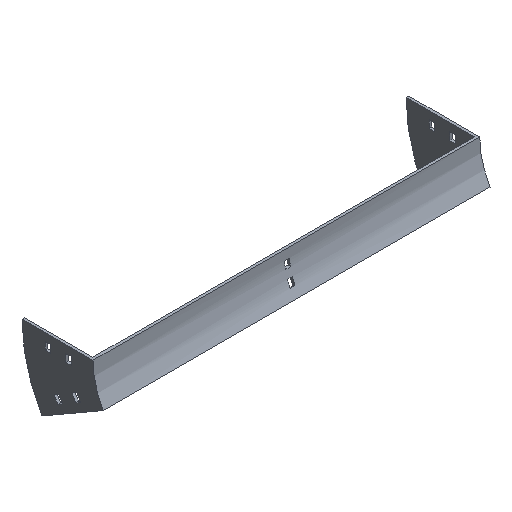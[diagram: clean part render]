
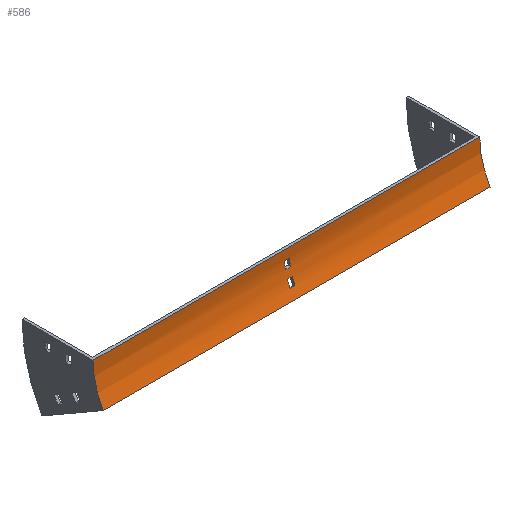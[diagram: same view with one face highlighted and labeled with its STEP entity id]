
A CAD part, isometric view. The second image highlights one B-rep face of the part: STEP entity #586.
In plain terms, the highlighted cylindrical face has radius 100 mm (diameter 200 mm), a partial arc.
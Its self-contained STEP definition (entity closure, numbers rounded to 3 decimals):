
#54 = AXIS2_PLACEMENT_3D ( 'NONE', #798, #1481, #1065 ) ;
#78 = VERTEX_POINT ( 'NONE', #1464 ) ;
#80 = CARTESIAN_POINT ( 'NONE',  ( 252., 0., 0. ) ) ;
#91 = CARTESIAN_POINT ( 'NONE',  ( -3.25, -100., 0. ) ) ;
#98 = CARTESIAN_POINT ( 'NONE',  ( -3.25, -8.023, -39.246 ) ) ;
#114 = LINE ( 'NONE', #123, #1695 ) ;
#123 = CARTESIAN_POINT ( 'NONE',  ( 252., -8.023, -39.246 ) ) ;
#164 = EDGE_CURVE ( 'NONE', #682, #389, #305, .T. ) ;
#166 = AXIS2_PLACEMENT_3D ( 'NONE', #1582, #258, #1335 ) ;
#174 = VERTEX_POINT ( 'NONE', #816 ) ;
#221 = DIRECTION ( 'NONE',  ( 0., 0., 1. ) ) ;
#255 = CARTESIAN_POINT ( 'NONE',  ( 3.25, -100., 0. ) ) ;
#258 = DIRECTION ( 'NONE',  ( -1., 0., 0. ) ) ;
#272 = ORIENTED_EDGE ( 'NONE', *, *, #596, .F. ) ;
#277 = VERTEX_POINT ( 'NONE', #98 ) ;
#284 = VECTOR ( 'NONE', #1138, 1000. ) ;
#300 = CARTESIAN_POINT ( 'NONE',  ( -3.25, -0.723, -12. ) ) ;
#305 = LINE ( 'NONE', #837, #890 ) ;
#327 = DIRECTION ( 'NONE',  ( 0., 0., 1. ) ) ;
#333 = EDGE_LOOP ( 'NONE', ( #925, #444, #358, #1285 ) ) ;
#337 = EDGE_CURVE ( 'NONE', #900, #682, #644, .T. ) ;
#340 = CIRCLE ( 'NONE', #54, 100. ) ;
#351 = CARTESIAN_POINT ( 'NONE',  ( -3.25, -2.23, -21. ) ) ;
#358 = ORIENTED_EDGE ( 'NONE', *, *, #1458, .F. ) ;
#360 = EDGE_CURVE ( 'NONE', #174, #1583, #1518, .T. ) ;
#363 = ORIENTED_EDGE ( 'NONE', *, *, #382, .T. ) ;
#375 = LINE ( 'NONE', #913, #1440 ) ;
#382 = EDGE_CURVE ( 'NONE', #1579, #900, #665, .T. ) ;
#389 = VERTEX_POINT ( 'NONE', #786 ) ;
#401 = CIRCLE ( 'NONE', #166, 100. ) ;
#429 = ORIENTED_EDGE ( 'NONE', *, *, #337, .T. ) ;
#444 = ORIENTED_EDGE ( 'NONE', *, *, #1673, .F. ) ;
#457 = DIRECTION ( 'NONE',  ( 1., 0., 0. ) ) ;
#466 = FACE_BOUND ( 'NONE', #612, .T. ) ;
#510 = DIRECTION ( 'NONE',  ( -1., 0., 0. ) ) ;
#538 = VERTEX_POINT ( 'NONE', #550 ) ;
#550 = CARTESIAN_POINT ( 'NONE',  ( 3.25, -8.023, -39.246 ) ) ;
#586 = ADVANCED_FACE ( 'NONE', ( #597, #466, #1003 ), #1262, .F. ) ;
#596 = EDGE_CURVE ( 'NONE', #1685, #277, #1259, .T. ) ;
#597 = FACE_OUTER_BOUND ( 'NONE', #333, .T. ) ;
#602 = DIRECTION ( 'NONE',  ( -1., 0., 0. ) ) ;
#606 = LINE ( 'NONE', #739, #284 ) ;
#612 = EDGE_LOOP ( 'NONE', ( #363, #429, #744, #766 ) ) ;
#631 = ORIENTED_EDGE ( 'NONE', *, *, #1379, .F. ) ;
#639 = EDGE_LOOP ( 'NONE', ( #272, #1319, #631, #1428 ) ) ;
#644 = CIRCLE ( 'NONE', #1694, 100. ) ;
#645 = CARTESIAN_POINT ( 'NONE',  ( -252., -13.397, -50. ) ) ;
#665 = LINE ( 'NONE', #1552, #1193 ) ;
#682 = VERTEX_POINT ( 'NONE', #300 ) ;
#711 = AXIS2_PLACEMENT_3D ( 'NONE', #255, #1169, #790 ) ;
#739 = CARTESIAN_POINT ( 'NONE',  ( 252., -13.397, -50. ) ) ;
#744 = ORIENTED_EDGE ( 'NONE', *, *, #164, .T. ) ;
#766 = ORIENTED_EDGE ( 'NONE', *, *, #1692, .T. ) ;
#786 = CARTESIAN_POINT ( 'NONE',  ( 3.25, -0.723, -12. ) ) ;
#790 = DIRECTION ( 'NONE',  ( 0., 0., 1. ) ) ;
#798 = CARTESIAN_POINT ( 'NONE',  ( 252., -100., 0. ) ) ;
#806 = CIRCLE ( 'NONE', #918, 100. ) ;
#816 = CARTESIAN_POINT ( 'NONE',  ( 252., 0., 0. ) ) ;
#837 = CARTESIAN_POINT ( 'NONE',  ( 252., -0.723, -12. ) ) ;
#860 = EDGE_CURVE ( 'NONE', #277, #538, #114, .T. ) ;
#890 = VECTOR ( 'NONE', #1362, 1000. ) ;
#900 = VERTEX_POINT ( 'NONE', #351 ) ;
#907 = CARTESIAN_POINT ( 'NONE',  ( 3.25, -100., 0. ) ) ;
#913 = CARTESIAN_POINT ( 'NONE',  ( 252., -4.829, -30.699 ) ) ;
#918 = AXIS2_PLACEMENT_3D ( 'NONE', #907, #1564, #1693 ) ;
#922 = AXIS2_PLACEMENT_3D ( 'NONE', #1010, #1112, #221 ) ;
#925 = ORIENTED_EDGE ( 'NONE', *, *, #1085, .T. ) ;
#937 = VERTEX_POINT ( 'NONE', #645 ) ;
#970 = CARTESIAN_POINT ( 'NONE',  ( 3.25, -2.23, -21. ) ) ;
#990 = EDGE_CURVE ( 'NONE', #1435, #1685, #375, .T. ) ;
#998 = DIRECTION ( 'NONE',  ( 1., 0., 0. ) ) ;
#1003 = FACE_BOUND ( 'NONE', #639, .T. ) ;
#1010 = CARTESIAN_POINT ( 'NONE',  ( 252., -100., 0. ) ) ;
#1065 = DIRECTION ( 'NONE',  ( 0., 0., 1. ) ) ;
#1085 = EDGE_CURVE ( 'NONE', #1583, #937, #401, .T. ) ;
#1112 = DIRECTION ( 'NONE',  ( -1., 0., 0. ) ) ;
#1138 = DIRECTION ( 'NONE',  ( -1., 0., 0. ) ) ;
#1169 = DIRECTION ( 'NONE',  ( 1., 0., 0. ) ) ;
#1193 = VECTOR ( 'NONE', #510, 1000. ) ;
#1213 = CARTESIAN_POINT ( 'NONE',  ( -252., 0., 0. ) ) ;
#1244 = DIRECTION ( 'NONE',  ( 0., 0., -1. ) ) ;
#1259 = CIRCLE ( 'NONE', #1337, 100. ) ;
#1262 = CYLINDRICAL_SURFACE ( 'NONE', #922, 100. ) ;
#1285 = ORIENTED_EDGE ( 'NONE', *, *, #360, .T. ) ;
#1303 = DIRECTION ( 'NONE',  ( -1., 0., 0. ) ) ;
#1319 = ORIENTED_EDGE ( 'NONE', *, *, #990, .F. ) ;
#1335 = DIRECTION ( 'NONE',  ( 0., 0., 1. ) ) ;
#1337 = AXIS2_PLACEMENT_3D ( 'NONE', #1675, #1495, #1244 ) ;
#1362 = DIRECTION ( 'NONE',  ( 1., 0., 0. ) ) ;
#1379 = EDGE_CURVE ( 'NONE', #538, #1435, #1617, .T. ) ;
#1428 = ORIENTED_EDGE ( 'NONE', *, *, #860, .F. ) ;
#1435 = VERTEX_POINT ( 'NONE', #1682 ) ;
#1440 = VECTOR ( 'NONE', #1303, 1000. ) ;
#1458 = EDGE_CURVE ( 'NONE', #174, #78, #340, .T. ) ;
#1464 = CARTESIAN_POINT ( 'NONE',  ( 252., -13.397, -50. ) ) ;
#1481 = DIRECTION ( 'NONE',  ( -1., 0., 0. ) ) ;
#1495 = DIRECTION ( 'NONE',  ( -1., 0., 0. ) ) ;
#1518 = LINE ( 'NONE', #80, #1550 ) ;
#1550 = VECTOR ( 'NONE', #602, 1000. ) ;
#1552 = CARTESIAN_POINT ( 'NONE',  ( 252., -2.23, -21. ) ) ;
#1564 = DIRECTION ( 'NONE',  ( -1., 0., 0. ) ) ;
#1579 = VERTEX_POINT ( 'NONE', #970 ) ;
#1582 = CARTESIAN_POINT ( 'NONE',  ( -252., -100., 0. ) ) ;
#1583 = VERTEX_POINT ( 'NONE', #1213 ) ;
#1617 = CIRCLE ( 'NONE', #711, 100. ) ;
#1662 = CARTESIAN_POINT ( 'NONE',  ( -3.25, -4.829, -30.699 ) ) ;
#1673 = EDGE_CURVE ( 'NONE', #78, #937, #606, .T. ) ;
#1675 = CARTESIAN_POINT ( 'NONE',  ( -3.25, -100., 0. ) ) ;
#1682 = CARTESIAN_POINT ( 'NONE',  ( 3.25, -4.829, -30.699 ) ) ;
#1685 = VERTEX_POINT ( 'NONE', #1662 ) ;
#1692 = EDGE_CURVE ( 'NONE', #389, #1579, #806, .T. ) ;
#1693 = DIRECTION ( 'NONE',  ( 0., 0., -1. ) ) ;
#1694 = AXIS2_PLACEMENT_3D ( 'NONE', #91, #998, #327 ) ;
#1695 = VECTOR ( 'NONE', #457, 1000. ) ;
